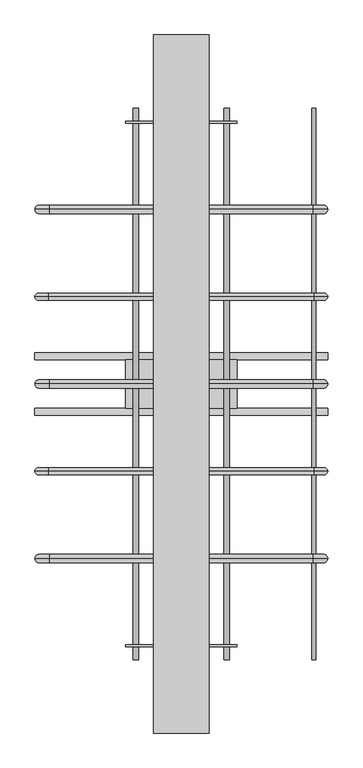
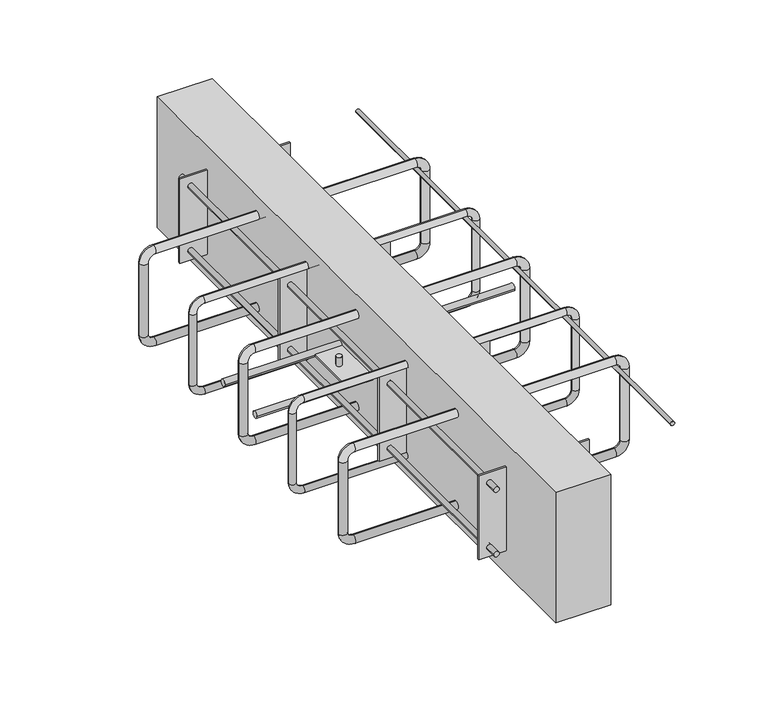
"""IFC4 building model written with IfcOpenShell, lengths in millimetres: proxy geometry, ACINOXplus_Typenreihe_Ux-Ox : OC+ S1."""

from ifc_helpers import new_model, si_unit, point, frame, frame_2d, origin, place, context, project, spatial, polyline, circle_curve, ellipse_curve, trimmed, segment, composite_curve, outline, extrude, source, transform, mapped, element, save
from ifc_brep_helpers import cylinder_surface, revolved_surface, advanced_brep


def generic_models_66b1b3f6(model_context):
    return source(origin(), model_context, "Body", "SolidModel", [
        advanced_brep(
        [(189.0, 0.0, -35.5), (189.0, 0.0, -23.5), (-189.0, 0.0, -23.5), (-189.0, 0.0, -35.5), (-198.0, 0.0, -44.5), (-210.0, 0.0, -44.5), (-210.0, 0.0, -155.5), (-198.0, 0.0, -155.5), (-189.0, 0.0, -164.5), (-189.0, 0.0, -176.5), (189.0, 0.0, -176.5), (189.0, 0.0, -164.5), (198.0, 0.0, -155.5), (210.0, 0.0, -155.5), (210.0, 0.0, -44.5), (198.0, 0.0, -44.5)],
        [
            (0, 1, circle_curve(frame((189.0, 0.0, -29.5), z_axis=(-1.0, 0.0, 0.0), x_axis=(0.0, 0.0, -1.0)), 6.0)),
            (1, 2),
            (2, 3, circle_curve(frame((-189.0, 0.0, -29.5), z_axis=(1.0, 0.0, 0.0), x_axis=(0.0, 0.0, -1.0)), 6.0)),
            (3, 0),
            (1, 0, circle_curve(frame((189.0, 0.0, -29.5), z_axis=(-1.0, 0.0, 0.0), x_axis=(0.0, 0.0, -1.0)), 6.0)),
            (3, 2, circle_curve(frame((-189.0, 0.0, -29.5), z_axis=(1.0, 0.0, 0.0), x_axis=(0.0, 0.0, -1.0)), 6.0)),
            (4, 3, circle_curve(frame((-189.0, 0.0, -44.5), z_axis=(0.0, 1.0, 0.0), x_axis=(0.0, 0.0, 1.0)), 9.0)),
            (2, 5, circle_curve(frame((-189.0, 0.0, -44.5), z_axis=(0.0, -1.0, 0.0), x_axis=(0.0, 0.0, 1.0)), 21.0)),
            (5, 4, circle_curve(frame((-204.0, 0.0, -44.5), z_axis=(0.0, 0.0, 1.0), x_axis=(1.0, 0.0, 0.0)), 6.0)),
            (4, 5, circle_curve(frame((-204.0, 0.0, -44.5), z_axis=(0.0, 0.0, 1.0), x_axis=(1.0, 0.0, 0.0)), 6.0)),
            (5, 6),
            (6, 7, circle_curve(frame((-204.0, 0.0, -155.5), z_axis=(0.0, 0.0, 1.0), x_axis=(1.0, 0.0, 0.0)), 6.0)),
            (7, 4),
            (7, 6, circle_curve(frame((-204.0, 0.0, -155.5), z_axis=(0.0, 0.0, 1.0), x_axis=(1.0, 0.0, 0.0)), 6.0)),
            (8, 7, circle_curve(frame((-189.0, 0.0, -155.5), z_axis=(0.0, 1.0, 0.0), x_axis=(-1.0, 0.0, 0.0)), 9.0)),
            (6, 9, circle_curve(frame((-189.0, 0.0, -155.5), z_axis=(0.0, -1.0, 0.0), x_axis=(-1.0, 0.0, 0.0)), 21.0)),
            (9, 8, circle_curve(frame((-189.0, 0.0, -170.5), z_axis=(-1.0, 0.0, 0.0), x_axis=(0.0, 0.0, 1.0)), 6.0)),
            (8, 9, circle_curve(frame((-189.0, 0.0, -170.5), z_axis=(-1.0, 0.0, 0.0), x_axis=(0.0, 0.0, 1.0)), 6.0)),
            (9, 10),
            (10, 11, circle_curve(frame((189.0, 0.0, -170.5), z_axis=(-1.0, 0.0, 0.0), x_axis=(0.0, 0.0, 1.0)), 6.0)),
            (11, 8),
            (11, 10, circle_curve(frame((189.0, 0.0, -170.5), z_axis=(-1.0, 0.0, 0.0), x_axis=(0.0, 0.0, 1.0)), 6.0)),
            (12, 11, circle_curve(frame((189.0, 0.0, -155.5), z_axis=(0.0, 1.0, 0.0), x_axis=(0.0, 0.0, -1.0)), 9.0)),
            (10, 13, circle_curve(frame((189.0, 0.0, -155.5), z_axis=(0.0, -1.0, 0.0), x_axis=(0.0, 0.0, -1.0)), 21.0)),
            (13, 12, circle_curve(frame((204.0, 0.0, -155.5), z_axis=(0.0, 0.0, -1.0), x_axis=(-1.0, 0.0, 0.0)), 6.0)),
            (12, 13, circle_curve(frame((204.0, 0.0, -155.5), z_axis=(0.0, 0.0, -1.0), x_axis=(-1.0, 0.0, 0.0)), 6.0)),
            (13, 14),
            (14, 15, circle_curve(frame((204.0, 0.0, -44.5), z_axis=(0.0, 0.0, -1.0), x_axis=(-1.0, 0.0, 0.0)), 6.0)),
            (15, 12),
            (15, 14, circle_curve(frame((204.0, 0.0, -44.5), z_axis=(0.0, 0.0, -1.0), x_axis=(-1.0, 0.0, 0.0)), 6.0)),
            (0, 15, circle_curve(frame((189.0, 0.0, -44.5), z_axis=(0.0, 1.0, 0.0), x_axis=(1.0, 0.0, 0.0)), 9.0)),
            (14, 1, circle_curve(frame((189.0, 0.0, -44.5), z_axis=(0.0, -1.0, 0.0), x_axis=(1.0, 0.0, 0.0)), 21.0)),
        ],
        [
            cylinder_surface(frame((189.0, 0.0, -29.5), z_axis=(1.0, 0.0, 0.0), x_axis=(0.0, 0.0, -1.0)), 6.0),
            revolved_surface(trimmed(ellipse_curve(frame((-189.0, 0.0, -29.5), z_axis=(1.0, 0.0, 0.0), x_axis=(0.0, 0.0, -1.0)), 6.0, 6.0), [point((-189.0, 0.0, -23.5))], [point((-189.0, 0.0, -35.5))], True, "CARTESIAN"), (-189.0, 0.0, -44.5), (0.0, -1.0, 0.0)),
            revolved_surface(trimmed(ellipse_curve(frame((-189.0, 0.0, -29.5), z_axis=(1.0, 0.0, 0.0), x_axis=(0.0, 0.0, -1.0)), 6.0, 6.0), [point((-189.0, 0.0, -35.5))], [point((-189.0, 0.0, -23.5))], True, "CARTESIAN"), (-189.0, 0.0, -44.5), (0.0, -1.0, 0.0)),
            cylinder_surface(frame((-204.0, 0.0, -44.5), z_axis=(0.0, 0.0, 1.0), x_axis=(1.0, 0.0, 0.0)), 6.0),
            revolved_surface(trimmed(ellipse_curve(frame((-204.0, 0.0, -155.5), z_axis=(0.0, 0.0, 1.0), x_axis=(1.0, 0.0, 0.0)), 6.0, 6.0), [point((-210.0, 0.0, -155.5))], [point((-198.0, 0.0, -155.5))], True, "CARTESIAN"), (-189.0, 0.0, -155.5), (0.0, -1.0, 0.0)),
            revolved_surface(trimmed(ellipse_curve(frame((-204.0, 0.0, -155.5), z_axis=(0.0, 0.0, 1.0), x_axis=(1.0, 0.0, 0.0)), 6.0, 6.0), [point((-198.0, 0.0, -155.5))], [point((-210.0, 0.0, -155.5))], True, "CARTESIAN"), (-189.0, 0.0, -155.5), (0.0, -1.0, 0.0)),
            cylinder_surface(frame((-189.0, 0.0, -170.5), z_axis=(-1.0, 0.0, 0.0), x_axis=(0.0, 0.0, 1.0)), 6.0),
            revolved_surface(trimmed(ellipse_curve(frame((189.0, 0.0, -170.5), z_axis=(-1.0, 0.0, 0.0), x_axis=(0.0, 0.0, 1.0)), 6.0, 6.0), [point((189.0, 0.0, -176.5))], [point((189.0, 0.0, -164.5))], True, "CARTESIAN"), (189.0, 0.0, -155.5), (0.0, -1.0, 0.0)),
            revolved_surface(trimmed(ellipse_curve(frame((189.0, 0.0, -170.5), z_axis=(-1.0, 0.0, 0.0), x_axis=(0.0, 0.0, 1.0)), 6.0, 6.0), [point((189.0, 0.0, -164.5))], [point((189.0, 0.0, -176.5))], True, "CARTESIAN"), (189.0, 0.0, -155.5), (0.0, -1.0, 0.0)),
            cylinder_surface(frame((204.0, 0.0, -155.5), z_axis=(0.0, 0.0, -1.0), x_axis=(-1.0, 0.0, 0.0)), 6.0),
            revolved_surface(trimmed(ellipse_curve(frame((204.0, 0.0, -44.5), z_axis=(0.0, 0.0, -1.0), x_axis=(-1.0, 0.0, 0.0)), 6.0, 6.0), [point((210.0, 0.0, -44.5))], [point((198.0, 0.0, -44.5))], True, "CARTESIAN"), (189.0, 0.0, -44.5), (0.0, -1.0, 0.0)),
            revolved_surface(trimmed(ellipse_curve(frame((204.0, 0.0, -44.5), z_axis=(0.0, 0.0, -1.0), x_axis=(-1.0, 0.0, 0.0)), 6.0, 6.0), [point((198.0, 0.0, -44.5))], [point((210.0, 0.0, -44.5))], True, "CARTESIAN"), (189.0, 0.0, -44.5), (0.0, -1.0, 0.0)),
        ],
        [
            (0, [[1, 2, 3, 4]]),
            (0, [[5, -4, 6, -2]]),
            (1, [[7, -3, 8, 9]]),
            (2, [[-8, -6, -7, 10]]),
            (3, [[-9, 11, 12, 13]]),
            (3, [[-10, -13, 14, -11]]),
            (4, [[15, -12, 16, 17]]),
            (5, [[-16, -14, -15, 18]]),
            (6, [[-17, 19, 20, 21]]),
            (6, [[-18, -21, 22, -19]]),
            (7, [[23, -20, 24, 25]]),
            (8, [[-24, -22, -23, 26]]),
            (9, [[-25, 27, 28, 29]]),
            (9, [[-26, -29, 30, -27]]),
            (10, [[31, -28, 32, -1]]),
            (11, [[-32, -30, -31, -5]]),
        ],
    ),
        advanced_brep(
        [(189.0, 250.0, -35.5), (189.0, 250.0, -23.5), (-189.0, 250.0, -23.5), (-189.0, 250.0, -35.5), (-198.0, 250.0, -44.5), (-210.0, 250.0, -44.5), (-210.0, 250.0, -155.5), (-198.0, 250.0, -155.5), (-189.0, 250.0, -164.5), (-189.0, 250.0, -176.5), (189.0, 250.0, -176.5), (189.0, 250.0, -164.5), (198.0, 250.0, -155.5), (210.0, 250.0, -155.5), (210.0, 250.0, -44.5), (198.0, 250.0, -44.5)],
        [
            (0, 1, circle_curve(frame((189.0, 250.0, -29.5), z_axis=(-1.0, 0.0, 0.0), x_axis=(0.0, 0.0, -1.0)), 6.0)),
            (1, 2),
            (2, 3, circle_curve(frame((-189.0, 250.0, -29.5), z_axis=(1.0, 0.0, 0.0), x_axis=(0.0, 0.0, -1.0)), 6.0)),
            (3, 0),
            (1, 0, circle_curve(frame((189.0, 250.0, -29.5), z_axis=(-1.0, 0.0, 0.0), x_axis=(0.0, 0.0, -1.0)), 6.0)),
            (3, 2, circle_curve(frame((-189.0, 250.0, -29.5), z_axis=(1.0, 0.0, 0.0), x_axis=(0.0, 0.0, -1.0)), 6.0)),
            (4, 3, circle_curve(frame((-189.0, 250.0, -44.5), z_axis=(0.0, 1.0, 0.0), x_axis=(0.0, 0.0, 1.0)), 9.0)),
            (2, 5, circle_curve(frame((-189.0, 250.0, -44.5), z_axis=(0.0, -1.0, 0.0), x_axis=(0.0, 0.0, 1.0)), 21.0)),
            (5, 4, circle_curve(frame((-204.0, 250.0, -44.5), z_axis=(0.0, 0.0, 1.0), x_axis=(1.0, 0.0, 0.0)), 6.0)),
            (4, 5, circle_curve(frame((-204.0, 250.0, -44.5), z_axis=(0.0, 0.0, 1.0), x_axis=(1.0, 0.0, 0.0)), 6.0)),
            (5, 6),
            (6, 7, circle_curve(frame((-204.0, 250.0, -155.5), z_axis=(0.0, 0.0, 1.0), x_axis=(1.0, 0.0, 0.0)), 6.0)),
            (7, 4),
            (7, 6, circle_curve(frame((-204.0, 250.0, -155.5), z_axis=(0.0, 0.0, 1.0), x_axis=(1.0, 0.0, 0.0)), 6.0)),
            (8, 7, circle_curve(frame((-189.0, 250.0, -155.5), z_axis=(0.0, 1.0, 0.0), x_axis=(-1.0, 0.0, 0.0)), 9.0)),
            (6, 9, circle_curve(frame((-189.0, 250.0, -155.5), z_axis=(0.0, -1.0, 0.0), x_axis=(-1.0, 0.0, 0.0)), 21.0)),
            (9, 8, circle_curve(frame((-189.0, 250.0, -170.5), z_axis=(-1.0, 0.0, 0.0), x_axis=(0.0, 0.0, 1.0)), 6.0)),
            (8, 9, circle_curve(frame((-189.0, 250.0, -170.5), z_axis=(-1.0, 0.0, 0.0), x_axis=(0.0, 0.0, 1.0)), 6.0)),
            (9, 10),
            (10, 11, circle_curve(frame((189.0, 250.0, -170.5), z_axis=(-1.0, 0.0, 0.0), x_axis=(0.0, 0.0, 1.0)), 6.0)),
            (11, 8),
            (11, 10, circle_curve(frame((189.0, 250.0, -170.5), z_axis=(-1.0, 0.0, 0.0), x_axis=(0.0, 0.0, 1.0)), 6.0)),
            (12, 11, circle_curve(frame((189.0, 250.0, -155.5), z_axis=(0.0, 1.0, 0.0), x_axis=(0.0, 0.0, -1.0)), 9.0)),
            (10, 13, circle_curve(frame((189.0, 250.0, -155.5), z_axis=(0.0, -1.0, 0.0), x_axis=(0.0, 0.0, -1.0)), 21.0)),
            (13, 12, circle_curve(frame((204.0, 250.0, -155.5), z_axis=(0.0, 0.0, -1.0), x_axis=(-1.0, 0.0, 0.0)), 6.0)),
            (12, 13, circle_curve(frame((204.0, 250.0, -155.5), z_axis=(0.0, 0.0, -1.0), x_axis=(-1.0, 0.0, 0.0)), 6.0)),
            (13, 14),
            (14, 15, circle_curve(frame((204.0, 250.0, -44.5), z_axis=(0.0, 0.0, -1.0), x_axis=(-1.0, 0.0, 0.0)), 6.0)),
            (15, 12),
            (15, 14, circle_curve(frame((204.0, 250.0, -44.5), z_axis=(0.0, 0.0, -1.0), x_axis=(-1.0, 0.0, 0.0)), 6.0)),
            (0, 15, circle_curve(frame((189.0, 250.0, -44.5), z_axis=(0.0, 1.0, 0.0), x_axis=(1.0, 0.0, 0.0)), 9.0)),
            (14, 1, circle_curve(frame((189.0, 250.0, -44.5), z_axis=(0.0, -1.0, 0.0), x_axis=(1.0, 0.0, 0.0)), 21.0)),
        ],
        [
            cylinder_surface(frame((189.0, 250.0, -29.5), z_axis=(1.0, 0.0, 0.0), x_axis=(0.0, 0.0, -1.0)), 6.0),
            revolved_surface(trimmed(ellipse_curve(frame((-189.0, 250.0, -29.5), z_axis=(1.0, 0.0, 0.0), x_axis=(0.0, 0.0, -1.0)), 6.0, 6.0), [point((-189.0, 250.0, -23.5))], [point((-189.0, 250.0, -35.5))], True, "CARTESIAN"), (-189.0, 250.0, -44.5), (0.0, -1.0, 0.0)),
            revolved_surface(trimmed(ellipse_curve(frame((-189.0, 250.0, -29.5), z_axis=(1.0, 0.0, 0.0), x_axis=(0.0, 0.0, -1.0)), 6.0, 6.0), [point((-189.0, 250.0, -35.5))], [point((-189.0, 250.0, -23.5))], True, "CARTESIAN"), (-189.0, 250.0, -44.5), (0.0, -1.0, 0.0)),
            cylinder_surface(frame((-204.0, 250.0, -44.5), z_axis=(0.0, 0.0, 1.0), x_axis=(1.0, 0.0, 0.0)), 6.0),
            revolved_surface(trimmed(ellipse_curve(frame((-204.0, 250.0, -155.5), z_axis=(0.0, 0.0, 1.0), x_axis=(1.0, 0.0, 0.0)), 6.0, 6.0), [point((-210.0, 250.0, -155.5))], [point((-198.0, 250.0, -155.5))], True, "CARTESIAN"), (-189.0, 250.0, -155.5), (0.0, -1.0, 0.0)),
            revolved_surface(trimmed(ellipse_curve(frame((-204.0, 250.0, -155.5), z_axis=(0.0, 0.0, 1.0), x_axis=(1.0, 0.0, 0.0)), 6.0, 6.0), [point((-198.0, 250.0, -155.5))], [point((-210.0, 250.0, -155.5))], True, "CARTESIAN"), (-189.0, 250.0, -155.5), (0.0, -1.0, 0.0)),
            cylinder_surface(frame((-189.0, 250.0, -170.5), z_axis=(-1.0, 0.0, 0.0), x_axis=(0.0, 0.0, 1.0)), 6.0),
            revolved_surface(trimmed(ellipse_curve(frame((189.0, 250.0, -170.5), z_axis=(-1.0, 0.0, 0.0), x_axis=(0.0, 0.0, 1.0)), 6.0, 6.0), [point((189.0, 250.0, -176.5))], [point((189.0, 250.0, -164.5))], True, "CARTESIAN"), (189.0, 250.0, -155.5), (0.0, -1.0, 0.0)),
            revolved_surface(trimmed(ellipse_curve(frame((189.0, 250.0, -170.5), z_axis=(-1.0, 0.0, 0.0), x_axis=(0.0, 0.0, 1.0)), 6.0, 6.0), [point((189.0, 250.0, -164.5))], [point((189.0, 250.0, -176.5))], True, "CARTESIAN"), (189.0, 250.0, -155.5), (0.0, -1.0, 0.0)),
            cylinder_surface(frame((204.0, 250.0, -155.5), z_axis=(0.0, 0.0, -1.0), x_axis=(-1.0, 0.0, 0.0)), 6.0),
            revolved_surface(trimmed(ellipse_curve(frame((204.0, 250.0, -44.5), z_axis=(0.0, 0.0, -1.0), x_axis=(-1.0, 0.0, 0.0)), 6.0, 6.0), [point((210.0, 250.0, -44.5))], [point((198.0, 250.0, -44.5))], True, "CARTESIAN"), (189.0, 250.0, -44.5), (0.0, -1.0, 0.0)),
            revolved_surface(trimmed(ellipse_curve(frame((204.0, 250.0, -44.5), z_axis=(0.0, 0.0, -1.0), x_axis=(-1.0, 0.0, 0.0)), 6.0, 6.0), [point((198.0, 250.0, -44.5))], [point((210.0, 250.0, -44.5))], True, "CARTESIAN"), (189.0, 250.0, -44.5), (0.0, -1.0, 0.0)),
        ],
        [
            (0, [[1, 2, 3, 4]]),
            (0, [[5, -4, 6, -2]]),
            (1, [[7, -3, 8, 9]]),
            (2, [[-8, -6, -7, 10]]),
            (3, [[-9, 11, 12, 13]]),
            (3, [[-10, -13, 14, -11]]),
            (4, [[15, -12, 16, 17]]),
            (5, [[-16, -14, -15, 18]]),
            (6, [[-17, 19, 20, 21]]),
            (6, [[-18, -21, 22, -19]]),
            (7, [[23, -20, 24, 25]]),
            (8, [[-24, -22, -23, 26]]),
            (9, [[-25, 27, 28, 29]]),
            (9, [[-26, -29, 30, -27]]),
            (10, [[31, -28, 32, -1]]),
            (11, [[-32, -30, -31, -5]]),
        ],
    ),
        advanced_brep(
        [(189.0, -250.0, -35.5), (189.0, -250.0, -23.5), (-189.0, -250.0, -23.5), (-189.0, -250.0, -35.5), (-198.0, -250.0, -44.5), (-210.0, -250.0, -44.5), (-210.0, -250.0, -155.5), (-198.0, -250.0, -155.5), (-189.0, -250.0, -164.5), (-189.0, -250.0, -176.5), (189.0, -250.0, -176.5), (189.0, -250.0, -164.5), (198.0, -250.0, -155.5), (210.0, -250.0, -155.5), (210.0, -250.0, -44.5), (198.0, -250.0, -44.5)],
        [
            (0, 1, circle_curve(frame((189.0, -250.0, -29.5), z_axis=(-1.0, 0.0, 0.0), x_axis=(0.0, 0.0, -1.0)), 6.0)),
            (1, 2),
            (2, 3, circle_curve(frame((-189.0, -250.0, -29.5), z_axis=(1.0, 0.0, 0.0), x_axis=(0.0, 0.0, -1.0)), 6.0)),
            (3, 0),
            (1, 0, circle_curve(frame((189.0, -250.0, -29.5), z_axis=(-1.0, 0.0, 0.0), x_axis=(0.0, 0.0, -1.0)), 6.0)),
            (3, 2, circle_curve(frame((-189.0, -250.0, -29.5), z_axis=(1.0, 0.0, 0.0), x_axis=(0.0, 0.0, -1.0)), 6.0)),
            (4, 3, circle_curve(frame((-189.0, -250.0, -44.5), z_axis=(0.0, 1.0, 0.0), x_axis=(0.0, 0.0, 1.0)), 9.0)),
            (2, 5, circle_curve(frame((-189.0, -250.0, -44.5), z_axis=(0.0, -1.0, 0.0), x_axis=(0.0, 0.0, 1.0)), 21.0)),
            (5, 4, circle_curve(frame((-204.0, -250.0, -44.5), z_axis=(0.0, 0.0, 1.0), x_axis=(1.0, 0.0, 0.0)), 6.0)),
            (4, 5, circle_curve(frame((-204.0, -250.0, -44.5), z_axis=(0.0, 0.0, 1.0), x_axis=(1.0, 0.0, 0.0)), 6.0)),
            (5, 6),
            (6, 7, circle_curve(frame((-204.0, -250.0, -155.5), z_axis=(0.0, 0.0, 1.0), x_axis=(1.0, 0.0, 0.0)), 6.0)),
            (7, 4),
            (7, 6, circle_curve(frame((-204.0, -250.0, -155.5), z_axis=(0.0, 0.0, 1.0), x_axis=(1.0, 0.0, 0.0)), 6.0)),
            (8, 7, circle_curve(frame((-189.0, -250.0, -155.5), z_axis=(0.0, 1.0, 0.0), x_axis=(-1.0, 0.0, 0.0)), 9.0)),
            (6, 9, circle_curve(frame((-189.0, -250.0, -155.5), z_axis=(0.0, -1.0, 0.0), x_axis=(-1.0, 0.0, 0.0)), 21.0)),
            (9, 8, circle_curve(frame((-189.0, -250.0, -170.5), z_axis=(-1.0, 0.0, 0.0), x_axis=(0.0, 0.0, 1.0)), 6.0)),
            (8, 9, circle_curve(frame((-189.0, -250.0, -170.5), z_axis=(-1.0, 0.0, 0.0), x_axis=(0.0, 0.0, 1.0)), 6.0)),
            (9, 10),
            (10, 11, circle_curve(frame((189.0, -250.0, -170.5), z_axis=(-1.0, 0.0, 0.0), x_axis=(0.0, 0.0, 1.0)), 6.0)),
            (11, 8),
            (11, 10, circle_curve(frame((189.0, -250.0, -170.5), z_axis=(-1.0, 0.0, 0.0), x_axis=(0.0, 0.0, 1.0)), 6.0)),
            (12, 11, circle_curve(frame((189.0, -250.0, -155.5), z_axis=(0.0, 1.0, 0.0), x_axis=(0.0, 0.0, -1.0)), 9.0)),
            (10, 13, circle_curve(frame((189.0, -250.0, -155.5), z_axis=(0.0, -1.0, 0.0), x_axis=(0.0, 0.0, -1.0)), 21.0)),
            (13, 12, circle_curve(frame((204.0, -250.0, -155.5), z_axis=(0.0, 0.0, -1.0), x_axis=(-1.0, 0.0, 0.0)), 6.0)),
            (12, 13, circle_curve(frame((204.0, -250.0, -155.5), z_axis=(0.0, 0.0, -1.0), x_axis=(-1.0, 0.0, 0.0)), 6.0)),
            (13, 14),
            (14, 15, circle_curve(frame((204.0, -250.0, -44.5), z_axis=(0.0, 0.0, -1.0), x_axis=(-1.0, 0.0, 0.0)), 6.0)),
            (15, 12),
            (15, 14, circle_curve(frame((204.0, -250.0, -44.5), z_axis=(0.0, 0.0, -1.0), x_axis=(-1.0, 0.0, 0.0)), 6.0)),
            (0, 15, circle_curve(frame((189.0, -250.0, -44.5), z_axis=(0.0, 1.0, 0.0), x_axis=(1.0, 0.0, 0.0)), 9.0)),
            (14, 1, circle_curve(frame((189.0, -250.0, -44.5), z_axis=(0.0, -1.0, 0.0), x_axis=(1.0, 0.0, 0.0)), 21.0)),
        ],
        [
            cylinder_surface(frame((189.0, -250.0, -29.5), z_axis=(1.0, 0.0, 0.0), x_axis=(0.0, 0.0, -1.0)), 6.0),
            revolved_surface(trimmed(ellipse_curve(frame((-189.0, -250.0, -29.5), z_axis=(1.0, 0.0, 0.0), x_axis=(0.0, 0.0, -1.0)), 6.0, 6.0), [point((-189.0, -250.0, -23.5))], [point((-189.0, -250.0, -35.5))], True, "CARTESIAN"), (-189.0, -250.0, -44.5), (0.0, -1.0, 0.0)),
            revolved_surface(trimmed(ellipse_curve(frame((-189.0, -250.0, -29.5), z_axis=(1.0, 0.0, 0.0), x_axis=(0.0, 0.0, -1.0)), 6.0, 6.0), [point((-189.0, -250.0, -35.5))], [point((-189.0, -250.0, -23.5))], True, "CARTESIAN"), (-189.0, -250.0, -44.5), (0.0, -1.0, 0.0)),
            cylinder_surface(frame((-204.0, -250.0, -44.5), z_axis=(0.0, 0.0, 1.0), x_axis=(1.0, 0.0, 0.0)), 6.0),
            revolved_surface(trimmed(ellipse_curve(frame((-204.0, -250.0, -155.5), z_axis=(0.0, 0.0, 1.0), x_axis=(1.0, 0.0, 0.0)), 6.0, 6.0), [point((-210.0, -250.0, -155.5))], [point((-198.0, -250.0, -155.5))], True, "CARTESIAN"), (-189.0, -250.0, -155.5), (0.0, -1.0, 0.0)),
            revolved_surface(trimmed(ellipse_curve(frame((-204.0, -250.0, -155.5), z_axis=(0.0, 0.0, 1.0), x_axis=(1.0, 0.0, 0.0)), 6.0, 6.0), [point((-198.0, -250.0, -155.5))], [point((-210.0, -250.0, -155.5))], True, "CARTESIAN"), (-189.0, -250.0, -155.5), (0.0, -1.0, 0.0)),
            cylinder_surface(frame((-189.0, -250.0, -170.5), z_axis=(-1.0, 0.0, 0.0), x_axis=(0.0, 0.0, 1.0)), 6.0),
            revolved_surface(trimmed(ellipse_curve(frame((189.0, -250.0, -170.5), z_axis=(-1.0, 0.0, 0.0), x_axis=(0.0, 0.0, 1.0)), 6.0, 6.0), [point((189.0, -250.0, -176.5))], [point((189.0, -250.0, -164.5))], True, "CARTESIAN"), (189.0, -250.0, -155.5), (0.0, -1.0, 0.0)),
            revolved_surface(trimmed(ellipse_curve(frame((189.0, -250.0, -170.5), z_axis=(-1.0, 0.0, 0.0), x_axis=(0.0, 0.0, 1.0)), 6.0, 6.0), [point((189.0, -250.0, -164.5))], [point((189.0, -250.0, -176.5))], True, "CARTESIAN"), (189.0, -250.0, -155.5), (0.0, -1.0, 0.0)),
            cylinder_surface(frame((204.0, -250.0, -155.5), z_axis=(0.0, 0.0, -1.0), x_axis=(-1.0, 0.0, 0.0)), 6.0),
            revolved_surface(trimmed(ellipse_curve(frame((204.0, -250.0, -44.5), z_axis=(0.0, 0.0, -1.0), x_axis=(-1.0, 0.0, 0.0)), 6.0, 6.0), [point((210.0, -250.0, -44.5))], [point((198.0, -250.0, -44.5))], True, "CARTESIAN"), (189.0, -250.0, -44.5), (0.0, -1.0, 0.0)),
            revolved_surface(trimmed(ellipse_curve(frame((204.0, -250.0, -44.5), z_axis=(0.0, 0.0, -1.0), x_axis=(-1.0, 0.0, 0.0)), 6.0, 6.0), [point((198.0, -250.0, -44.5))], [point((210.0, -250.0, -44.5))], True, "CARTESIAN"), (189.0, -250.0, -44.5), (0.0, -1.0, 0.0)),
        ],
        [
            (0, [[1, 2, 3, 4]]),
            (0, [[5, -4, 6, -2]]),
            (1, [[7, -3, 8, 9]]),
            (2, [[-8, -6, -7, 10]]),
            (3, [[-9, 11, 12, 13]]),
            (3, [[-10, -13, 14, -11]]),
            (4, [[15, -12, 16, 17]]),
            (5, [[-16, -14, -15, 18]]),
            (6, [[-17, 19, 20, 21]]),
            (6, [[-18, -21, 22, -19]]),
            (7, [[23, -20, 24, 25]]),
            (8, [[-24, -22, -23, 26]]),
            (9, [[-25, 27, 28, 29]]),
            (9, [[-26, -29, 30, -27]]),
            (10, [[31, -28, 32, -1]]),
            (11, [[-32, -30, -31, -5]]),
        ],
    ),
        extrude(outline(composite_curve([segment(trimmed(circle_curve(frame_2d((-38.5, 190.0)), 3.0), [point((-38.5, 193.0))], [point((-38.5, 187.0))], False, "CARTESIAN"), True, "CONTINUOUS"), segment(trimmed(circle_curve(frame_2d((-38.5, 190.0)), 3.0), [point((-38.5, 187.0))], [point((-38.5, 193.0))], False, "CARTESIAN"), True, "CONTINUOUS")], self_intersect=False)), frame((0.0, -395.0, 0.0), z_axis=(0.0, 1.0, 0.0), x_axis=(0.0, 0.0, 1.0)), (0.0, 0.0, 1.0), 790.0),
        extrude(outline(polyline([(40.0, 500.0), (40.0, -500.0), (-40.0, -500.0), (-40.0, 500.0), (40.0, 500.0)])), frame((0.0, 0.0, -200.0), z_axis=(0.0, 0.0, 1.0), x_axis=(1.0, 0.0, 0.0)), (0.0, 0.0, 1.0), 200.0),
        extrude(outline(composite_curve([segment(trimmed(circle_curve(frame_2d((-40.0, -100.0)), 5.0), [point((-45.0, -100.0))], [point((-35.0, -100.0))], False, "CARTESIAN"), True, "CONTINUOUS"), segment(trimmed(circle_curve(frame_2d((-40.0, -100.0)), 5.0), [point((-35.0, -100.0))], [point((-45.0, -100.0))], False, "CARTESIAN"), True, "CONTINUOUS")], self_intersect=False)), frame((-210.0, 0.0, 0.0), z_axis=(1.0, 0.0, 0.0), x_axis=(0.0, 1.0, 0.0)), (0.0, 0.0, 1.0), 420.0),
        extrude(outline(composite_curve([segment(trimmed(circle_curve(frame_2d((40.0, -100.0)), 5.0), [point((35.0, -100.0))], [point((45.0, -100.0))], False, "CARTESIAN"), True, "CONTINUOUS"), segment(trimmed(circle_curve(frame_2d((40.0, -100.0)), 5.0), [point((45.0, -100.0))], [point((35.0, -100.0))], False, "CARTESIAN"), True, "CONTINUOUS")], self_intersect=False)), frame((-210.0, 0.0, 0.0), z_axis=(1.0, 0.0, 0.0), x_axis=(0.0, 1.0, 0.0)), (0.0, 0.0, 1.0), 420.0),
        extrude(outline(composite_curve([segment(trimmed(circle_curve(frame_2d((-65.0, 0.0)), 4.0), [point((-61.0, 0.0))], [point((-69.0, 0.0))], False, "CARTESIAN"), True, "CONTINUOUS"), segment(trimmed(circle_curve(frame_2d((-65.0, 0.0)), 4.0), [point((-69.0, 0.0))], [point((-61.0, 0.0))], False, "CARTESIAN"), True, "CONTINUOUS")], self_intersect=False)), frame((0.0, 0.0, -98.5), z_axis=(0.0, 0.0, 1.0), x_axis=(1.0, 0.0, 0.0)), (0.0, 0.0, 1.0), 13.5),
        extrude(outline(composite_curve([segment(trimmed(circle_curve(frame_2d((65.0, 0.0)), 4.0), [point((69.0, 0.0))], [point((61.0, 0.0))], False, "CARTESIAN"), True, "CONTINUOUS"), segment(trimmed(circle_curve(frame_2d((65.0, 0.0)), 4.0), [point((61.0, 0.0))], [point((69.0, 0.0))], False, "CARTESIAN"), True, "CONTINUOUS")], self_intersect=False)), frame((0.0, 0.0, -98.5), z_axis=(0.0, 0.0, 1.0), x_axis=(1.0, 0.0, 0.0)), (0.0, 0.0, 1.0), 13.5),
        extrude(outline(composite_curve([segment(trimmed(circle_curve(frame_2d((-65.0, 0.0)), 4.0), [point((-69.0, 0.0))], [point((-61.0, 0.0))], False, "CARTESIAN"), True, "CONTINUOUS"), segment(trimmed(circle_curve(frame_2d((-65.0, 0.0)), 4.0), [point((-61.0, 0.0))], [point((-69.0, 0.0))], False, "CARTESIAN"), True, "CONTINUOUS")], self_intersect=False)), frame((0.0, 0.0, -115.0), z_axis=(0.0, 0.0, 1.0), x_axis=(1.0, 0.0, 0.0)), (0.0, 0.0, 1.0), 13.5),
        extrude(outline(composite_curve([segment(trimmed(circle_curve(frame_2d((65.0, 0.0)), 4.0), [point((61.0, 0.0))], [point((69.0, 0.0))], False, "CARTESIAN"), True, "CONTINUOUS"), segment(trimmed(circle_curve(frame_2d((65.0, 0.0)), 4.0), [point((69.0, 0.0))], [point((61.0, 0.0))], False, "CARTESIAN"), True, "CONTINUOUS")], self_intersect=False)), frame((0.0, 0.0, -115.0), z_axis=(0.0, 0.0, 1.0), x_axis=(1.0, 0.0, 0.0)), (0.0, 0.0, 1.0), 13.5),
        extrude(outline(polyline([(80.0, 35.0), (80.0, -35.0), (-80.0, -35.0), (-80.0, 35.0), (80.0, 35.0)])), frame((0.0, 0.0, -101.5), z_axis=(0.0, 0.0, 1.0), x_axis=(1.0, 0.0, 0.0)), (0.0, 0.0, 1.0), 3.0),
        extrude(outline(polyline([(80.0, -123.5), (80.0, -126.5), (-80.0, -126.5), (-80.0, -123.5), (80.0, -123.5)])), frame((0.0, 0.0, -164.5), z_axis=(0.0, 0.0, 1.0), x_axis=(1.0, 0.0, 0.0)), (0.0, 0.0, 1.0), 129.0),
        extrude(outline(polyline([(80.0, 126.5), (80.0, 123.5), (-80.0, 123.5), (-80.0, 126.5), (80.0, 126.5)])), frame((0.0, 0.0, -164.5), z_axis=(0.0, 0.0, 1.0), x_axis=(1.0, 0.0, 0.0)), (0.0, 0.0, 1.0), 129.0),
        extrude(outline(polyline([(80.0, -373.5), (80.0, -376.5), (-80.0, -376.5), (-80.0, -373.5), (80.0, -373.5)])), frame((0.0, 0.0, -164.5), z_axis=(0.0, 0.0, 1.0), x_axis=(1.0, 0.0, 0.0)), (0.0, 0.0, 1.0), 129.0),
        extrude(outline(polyline([(80.0, 376.5), (80.0, 373.5), (-80.0, 373.5), (-80.0, 376.5), (80.0, 376.5)])), frame((0.0, 0.0, -164.5), z_axis=(0.0, 0.0, 1.0), x_axis=(1.0, 0.0, 0.0)), (0.0, 0.0, 1.0), 129.0),
        extrude(outline(composite_curve([segment(trimmed(circle_curve(frame_2d((-149.5, -65.0)), 4.0), [point((-149.5, -61.0))], [point((-149.5, -69.0))], False, "CARTESIAN"), True, "CONTINUOUS"), segment(trimmed(circle_curve(frame_2d((-149.5, -65.0)), 4.0), [point((-149.5, -69.0))], [point((-149.5, -61.0))], False, "CARTESIAN"), True, "CONTINUOUS")], self_intersect=False)), frame((0.0, -395.0, 0.0), z_axis=(0.0, 1.0, 0.0), x_axis=(0.0, 0.0, 1.0)), (0.0, 0.0, 1.0), 18.5),
        extrude(outline(composite_curve([segment(trimmed(circle_curve(frame_2d((-149.5, -65.0)), 4.0), [point((-149.5, -69.0))], [point((-149.5, -61.0))], False, "CARTESIAN"), True, "CONTINUOUS"), segment(trimmed(circle_curve(frame_2d((-149.5, -65.0)), 4.0), [point((-149.5, -61.0))], [point((-149.5, -69.0))], False, "CARTESIAN"), True, "CONTINUOUS")], self_intersect=False)), frame((0.0, -373.5, 0.0), z_axis=(0.0, 1.0, 0.0), x_axis=(0.0, 0.0, 1.0)), (0.0, 0.0, 1.0), 497.0),
        extrude(outline(composite_curve([segment(trimmed(circle_curve(frame_2d((-149.5, -65.0)), 4.0), [point((-149.5, -69.0))], [point((-149.5, -61.0))], False, "CARTESIAN"), True, "CONTINUOUS"), segment(trimmed(circle_curve(frame_2d((-149.5, -65.0)), 4.0), [point((-149.5, -61.0))], [point((-149.5, -69.0))], False, "CARTESIAN"), True, "CONTINUOUS")], self_intersect=False)), frame((0.0, 376.5, 0.0), z_axis=(0.0, 1.0, 0.0), x_axis=(0.0, 0.0, 1.0)), (0.0, 0.0, 1.0), 18.5),
        extrude(outline(composite_curve([segment(trimmed(circle_curve(frame_2d((-149.5, -65.0)), 4.0), [point((-149.5, -69.0))], [point((-149.5, -61.0))], False, "CARTESIAN"), True, "CONTINUOUS"), segment(trimmed(circle_curve(frame_2d((-149.5, -65.0)), 4.0), [point((-149.5, -61.0))], [point((-149.5, -69.0))], False, "CARTESIAN"), True, "CONTINUOUS")], self_intersect=False)), frame((0.0, 126.5, 0.0), z_axis=(0.0, 1.0, 0.0), x_axis=(0.0, 0.0, 1.0)), (0.0, 0.0, 1.0), 247.0),
        extrude(outline(composite_curve([segment(trimmed(circle_curve(frame_2d((-149.5, 65.0)), 4.0), [point((-149.5, 69.0))], [point((-149.5, 61.0))], False, "CARTESIAN"), True, "CONTINUOUS"), segment(trimmed(circle_curve(frame_2d((-149.5, 65.0)), 4.0), [point((-149.5, 61.0))], [point((-149.5, 69.0))], False, "CARTESIAN"), True, "CONTINUOUS")], self_intersect=False)), frame((0.0, -395.0, 0.0), z_axis=(0.0, 1.0, 0.0), x_axis=(0.0, 0.0, 1.0)), (0.0, 0.0, 1.0), 18.5),
        extrude(outline(composite_curve([segment(trimmed(circle_curve(frame_2d((-149.5, 65.0)), 4.0), [point((-149.5, 61.0))], [point((-149.5, 69.0))], False, "CARTESIAN"), True, "CONTINUOUS"), segment(trimmed(circle_curve(frame_2d((-149.5, 65.0)), 4.0), [point((-149.5, 69.0))], [point((-149.5, 61.0))], False, "CARTESIAN"), True, "CONTINUOUS")], self_intersect=False)), frame((0.0, -373.5, 0.0), z_axis=(0.0, 1.0, 0.0), x_axis=(0.0, 0.0, 1.0)), (0.0, 0.0, 1.0), 497.0),
        extrude(outline(composite_curve([segment(trimmed(circle_curve(frame_2d((-149.5, 65.0)), 4.0), [point((-149.5, 61.0))], [point((-149.5, 69.0))], False, "CARTESIAN"), True, "CONTINUOUS"), segment(trimmed(circle_curve(frame_2d((-149.5, 65.0)), 4.0), [point((-149.5, 69.0))], [point((-149.5, 61.0))], False, "CARTESIAN"), True, "CONTINUOUS")], self_intersect=False)), frame((0.0, 376.5, 0.0), z_axis=(0.0, 1.0, 0.0), x_axis=(0.0, 0.0, 1.0)), (0.0, 0.0, 1.0), 18.5),
        extrude(outline(composite_curve([segment(trimmed(circle_curve(frame_2d((-149.5, 65.0)), 4.0), [point((-149.5, 61.0))], [point((-149.5, 69.0))], False, "CARTESIAN"), True, "CONTINUOUS"), segment(trimmed(circle_curve(frame_2d((-149.5, 65.0)), 4.0), [point((-149.5, 69.0))], [point((-149.5, 61.0))], False, "CARTESIAN"), True, "CONTINUOUS")], self_intersect=False)), frame((0.0, 126.5, 0.0), z_axis=(0.0, 1.0, 0.0), x_axis=(0.0, 0.0, 1.0)), (0.0, 0.0, 1.0), 247.0),
        extrude(outline(composite_curve([segment(trimmed(circle_curve(frame_2d((-50.5, -65.0)), 4.0), [point((-50.5, -69.0))], [point((-50.5, -61.0))], False, "CARTESIAN"), True, "CONTINUOUS"), segment(trimmed(circle_curve(frame_2d((-50.5, -65.0)), 4.0), [point((-50.5, -61.0))], [point((-50.5, -69.0))], False, "CARTESIAN"), True, "CONTINUOUS")], self_intersect=False)), frame((0.0, 376.5, 0.0), z_axis=(0.0, 1.0, 0.0), x_axis=(0.0, 0.0, 1.0)), (0.0, 0.0, 1.0), 18.5),
        extrude(outline(composite_curve([segment(trimmed(circle_curve(frame_2d((-50.5, -65.0)), 4.0), [point((-50.5, -61.0))], [point((-50.5, -69.0))], False, "CARTESIAN"), True, "CONTINUOUS"), segment(trimmed(circle_curve(frame_2d((-50.5, -65.0)), 4.0), [point((-50.5, -69.0))], [point((-50.5, -61.0))], False, "CARTESIAN"), True, "CONTINUOUS")], self_intersect=False)), frame((0.0, -395.0, 0.0), z_axis=(0.0, 1.0, 0.0), x_axis=(0.0, 0.0, 1.0)), (0.0, 0.0, 1.0), 18.5),
        extrude(outline(composite_curve([segment(trimmed(circle_curve(frame_2d((-50.5, -65.0)), 4.0), [point((-50.5, -69.0))], [point((-50.5, -61.0))], False, "CARTESIAN"), True, "CONTINUOUS"), segment(trimmed(circle_curve(frame_2d((-50.5, -65.0)), 4.0), [point((-50.5, -61.0))], [point((-50.5, -69.0))], False, "CARTESIAN"), True, "CONTINUOUS")], self_intersect=False)), frame((0.0, -373.5, 0.0), z_axis=(0.0, 1.0, 0.0), x_axis=(0.0, 0.0, 1.0)), (0.0, 0.0, 1.0), 497.0),
        extrude(outline(composite_curve([segment(trimmed(circle_curve(frame_2d((-50.5, -65.0)), 4.0), [point((-50.5, -69.0))], [point((-50.5, -61.0))], False, "CARTESIAN"), True, "CONTINUOUS"), segment(trimmed(circle_curve(frame_2d((-50.5, -65.0)), 4.0), [point((-50.5, -61.0))], [point((-50.5, -69.0))], False, "CARTESIAN"), True, "CONTINUOUS")], self_intersect=False)), frame((0.0, 126.5, 0.0), z_axis=(0.0, 1.0, 0.0), x_axis=(0.0, 0.0, 1.0)), (0.0, 0.0, 1.0), 247.0),
        extrude(outline(composite_curve([segment(trimmed(circle_curve(frame_2d((-50.5, 65.0)), 4.0), [point((-50.5, 61.0))], [point((-50.5, 69.0))], False, "CARTESIAN"), True, "CONTINUOUS"), segment(trimmed(circle_curve(frame_2d((-50.5, 65.0)), 4.0), [point((-50.5, 69.0))], [point((-50.5, 61.0))], False, "CARTESIAN"), True, "CONTINUOUS")], self_intersect=False)), frame((0.0, 376.5, 0.0), z_axis=(0.0, 1.0, 0.0), x_axis=(0.0, 0.0, 1.0)), (0.0, 0.0, 1.0), 18.5),
        extrude(outline(composite_curve([segment(trimmed(circle_curve(frame_2d((-50.5, 65.0)), 4.0), [point((-50.5, 69.0))], [point((-50.5, 61.0))], False, "CARTESIAN"), True, "CONTINUOUS"), segment(trimmed(circle_curve(frame_2d((-50.5, 65.0)), 4.0), [point((-50.5, 61.0))], [point((-50.5, 69.0))], False, "CARTESIAN"), True, "CONTINUOUS")], self_intersect=False)), frame((0.0, -395.0, 0.0), z_axis=(0.0, 1.0, 0.0), x_axis=(0.0, 0.0, 1.0)), (0.0, 0.0, 1.0), 18.5),
        extrude(outline(composite_curve([segment(trimmed(circle_curve(frame_2d((-50.5, 65.0)), 4.0), [point((-50.5, 61.0))], [point((-50.5, 69.0))], False, "CARTESIAN"), True, "CONTINUOUS"), segment(trimmed(circle_curve(frame_2d((-50.5, 65.0)), 4.0), [point((-50.5, 69.0))], [point((-50.5, 61.0))], False, "CARTESIAN"), True, "CONTINUOUS")], self_intersect=False)), frame((0.0, -373.5, 0.0), z_axis=(0.0, 1.0, 0.0), x_axis=(0.0, 0.0, 1.0)), (0.0, 0.0, 1.0), 497.0),
        extrude(outline(composite_curve([segment(trimmed(circle_curve(frame_2d((-50.5, 65.0)), 4.0), [point((-50.5, 61.0))], [point((-50.5, 69.0))], False, "CARTESIAN"), True, "CONTINUOUS"), segment(trimmed(circle_curve(frame_2d((-50.5, 65.0)), 4.0), [point((-50.5, 69.0))], [point((-50.5, 61.0))], False, "CARTESIAN"), True, "CONTINUOUS")], self_intersect=False)), frame((0.0, 126.5, 0.0), z_axis=(0.0, 1.0, 0.0), x_axis=(0.0, 0.0, 1.0)), (0.0, 0.0, 1.0), 247.0),
        advanced_brep(
        [(190.0, 125.0, -35.5), (190.0, 125.0, -25.5), (-190.0, 125.0, -25.5), (-190.0, 125.0, -35.5), (-200.0, 125.0, -45.5), (-210.0, 125.0, -45.5), (-210.0, 125.0, -154.5), (-200.0, 125.0, -154.5), (-190.0, 125.0, -164.5), (-190.0, 125.0, -174.5), (190.0, 125.0, -174.5), (190.0, 125.0, -164.5), (200.0, 125.0, -154.5), (210.0, 125.0, -154.5), (210.0, 125.0, -45.5), (200.0, 125.0, -45.5)],
        [
            (0, 1, circle_curve(frame((190.0, 125.0, -30.5), z_axis=(-1.0, 0.0, 0.0), x_axis=(0.0, 0.0, -1.0)), 5.0)),
            (1, 2),
            (2, 3, circle_curve(frame((-190.0, 125.0, -30.5), z_axis=(1.0, 0.0, 0.0), x_axis=(0.0, 0.0, -1.0)), 5.0)),
            (3, 0),
            (1, 0, circle_curve(frame((190.0, 125.0, -30.5), z_axis=(-1.0, 0.0, 0.0), x_axis=(0.0, 0.0, -1.0)), 5.0)),
            (3, 2, circle_curve(frame((-190.0, 125.0, -30.5), z_axis=(1.0, 0.0, 0.0), x_axis=(0.0, 0.0, -1.0)), 5.0)),
            (4, 3, circle_curve(frame((-190.0, 125.0, -45.5), z_axis=(0.0, 1.0, 0.0), x_axis=(0.0, 0.0, 1.0)), 10.0)),
            (2, 5, circle_curve(frame((-190.0, 125.0, -45.5), z_axis=(0.0, -1.0, 0.0), x_axis=(0.0, 0.0, 1.0)), 20.0)),
            (5, 4, circle_curve(frame((-205.0, 125.0, -45.5), z_axis=(0.0, 0.0, 1.0), x_axis=(1.0, 0.0, 0.0)), 5.0)),
            (4, 5, circle_curve(frame((-205.0, 125.0, -45.5), z_axis=(0.0, 0.0, 1.0), x_axis=(1.0, 0.0, 0.0)), 5.0)),
            (5, 6),
            (6, 7, circle_curve(frame((-205.0, 125.0, -154.5), z_axis=(0.0, 0.0, 1.0), x_axis=(1.0, 0.0, 0.0)), 5.0)),
            (7, 4),
            (7, 6, circle_curve(frame((-205.0, 125.0, -154.5), z_axis=(0.0, 0.0, 1.0), x_axis=(1.0, 0.0, 0.0)), 5.0)),
            (8, 7, circle_curve(frame((-190.0, 125.0, -154.5), z_axis=(0.0, 1.0, 0.0), x_axis=(-1.0, 0.0, 0.0)), 10.0)),
            (6, 9, circle_curve(frame((-190.0, 125.0, -154.5), z_axis=(0.0, -1.0, 0.0), x_axis=(-1.0, 0.0, 0.0)), 20.0)),
            (9, 8, circle_curve(frame((-190.0, 125.0, -169.5), z_axis=(-1.0, 0.0, 0.0), x_axis=(0.0, 0.0, 1.0)), 5.0)),
            (8, 9, circle_curve(frame((-190.0, 125.0, -169.5), z_axis=(-1.0, 0.0, 0.0), x_axis=(0.0, 0.0, 1.0)), 5.0)),
            (9, 10),
            (10, 11, circle_curve(frame((190.0, 125.0, -169.5), z_axis=(-1.0, 0.0, 0.0), x_axis=(0.0, 0.0, 1.0)), 5.0)),
            (11, 8),
            (11, 10, circle_curve(frame((190.0, 125.0, -169.5), z_axis=(-1.0, 0.0, 0.0), x_axis=(0.0, 0.0, 1.0)), 5.0)),
            (12, 11, circle_curve(frame((190.0, 125.0, -154.5), z_axis=(0.0, 1.0, 0.0), x_axis=(0.0, 0.0, -1.0)), 10.0)),
            (10, 13, circle_curve(frame((190.0, 125.0, -154.5), z_axis=(0.0, -1.0, 0.0), x_axis=(0.0, 0.0, -1.0)), 20.0)),
            (13, 12, circle_curve(frame((205.0, 125.0, -154.5), z_axis=(0.0, 0.0, -1.0), x_axis=(-1.0, 0.0, 0.0)), 5.0)),
            (12, 13, circle_curve(frame((205.0, 125.0, -154.5), z_axis=(0.0, 0.0, -1.0), x_axis=(-1.0, 0.0, 0.0)), 5.0)),
            (13, 14),
            (14, 15, circle_curve(frame((205.0, 125.0, -45.5), z_axis=(0.0, 0.0, -1.0), x_axis=(-1.0, 0.0, 0.0)), 5.0)),
            (15, 12),
            (15, 14, circle_curve(frame((205.0, 125.0, -45.5), z_axis=(0.0, 0.0, -1.0), x_axis=(-1.0, 0.0, 0.0)), 5.0)),
            (0, 15, circle_curve(frame((190.0, 125.0, -45.5), z_axis=(0.0, 1.0, 0.0), x_axis=(1.0, 0.0, 0.0)), 10.0)),
            (14, 1, circle_curve(frame((190.0, 125.0, -45.5), z_axis=(0.0, -1.0, 0.0), x_axis=(1.0, 0.0, 0.0)), 20.0)),
        ],
        [
            cylinder_surface(frame((190.0, 125.0, -30.5), z_axis=(1.0, 0.0, 0.0), x_axis=(0.0, 0.0, -1.0)), 5.0),
            revolved_surface(trimmed(ellipse_curve(frame((-190.0, 125.0, -30.5), z_axis=(1.0, 0.0, 0.0), x_axis=(0.0, 0.0, -1.0)), 5.0, 5.0), [point((-190.0, 125.0, -25.5))], [point((-190.0, 125.0, -35.5))], True, "CARTESIAN"), (-190.0, 125.0, -45.5), (0.0, -1.0, 0.0)),
            revolved_surface(trimmed(ellipse_curve(frame((-190.0, 125.0, -30.5), z_axis=(1.0, 0.0, 0.0), x_axis=(0.0, 0.0, -1.0)), 5.0, 5.0), [point((-190.0, 125.0, -35.5))], [point((-190.0, 125.0, -25.5))], True, "CARTESIAN"), (-190.0, 125.0, -45.5), (0.0, -1.0, 0.0)),
            cylinder_surface(frame((-205.0, 125.0, -45.5), z_axis=(0.0, 0.0, 1.0), x_axis=(1.0, 0.0, 0.0)), 5.0),
            revolved_surface(trimmed(ellipse_curve(frame((-205.0, 125.0, -154.5), z_axis=(0.0, 0.0, 1.0), x_axis=(1.0, 0.0, 0.0)), 5.0, 5.0), [point((-210.0, 125.0, -154.5))], [point((-200.0, 125.0, -154.5))], True, "CARTESIAN"), (-190.0, 125.0, -154.5), (0.0, -1.0, 0.0)),
            revolved_surface(trimmed(ellipse_curve(frame((-205.0, 125.0, -154.5), z_axis=(0.0, 0.0, 1.0), x_axis=(1.0, 0.0, 0.0)), 5.0, 5.0), [point((-200.0, 125.0, -154.5))], [point((-210.0, 125.0, -154.5))], True, "CARTESIAN"), (-190.0, 125.0, -154.5), (0.0, -1.0, 0.0)),
            cylinder_surface(frame((-190.0, 125.0, -169.5), z_axis=(-1.0, 0.0, 0.0), x_axis=(0.0, 0.0, 1.0)), 5.0),
            revolved_surface(trimmed(ellipse_curve(frame((190.0, 125.0, -169.5), z_axis=(-1.0, 0.0, 0.0), x_axis=(0.0, 0.0, 1.0)), 5.0, 5.0), [point((190.0, 125.0, -174.5))], [point((190.0, 125.0, -164.5))], True, "CARTESIAN"), (190.0, 125.0, -154.5), (0.0, -1.0, 0.0)),
            revolved_surface(trimmed(ellipse_curve(frame((190.0, 125.0, -169.5), z_axis=(-1.0, 0.0, 0.0), x_axis=(0.0, 0.0, 1.0)), 5.0, 5.0), [point((190.0, 125.0, -164.5))], [point((190.0, 125.0, -174.5))], True, "CARTESIAN"), (190.0, 125.0, -154.5), (0.0, -1.0, 0.0)),
            cylinder_surface(frame((205.0, 125.0, -154.5), z_axis=(0.0, 0.0, -1.0), x_axis=(-1.0, 0.0, 0.0)), 5.0),
            revolved_surface(trimmed(ellipse_curve(frame((205.0, 125.0, -45.5), z_axis=(0.0, 0.0, -1.0), x_axis=(-1.0, 0.0, 0.0)), 5.0, 5.0), [point((210.0, 125.0, -45.5))], [point((200.0, 125.0, -45.5))], True, "CARTESIAN"), (190.0, 125.0, -45.5), (0.0, -1.0, 0.0)),
            revolved_surface(trimmed(ellipse_curve(frame((205.0, 125.0, -45.5), z_axis=(0.0, 0.0, -1.0), x_axis=(-1.0, 0.0, 0.0)), 5.0, 5.0), [point((200.0, 125.0, -45.5))], [point((210.0, 125.0, -45.5))], True, "CARTESIAN"), (190.0, 125.0, -45.5), (0.0, -1.0, 0.0)),
        ],
        [
            (0, [[1, 2, 3, 4]]),
            (0, [[5, -4, 6, -2]]),
            (1, [[7, -3, 8, 9]]),
            (2, [[-8, -6, -7, 10]]),
            (3, [[-9, 11, 12, 13]]),
            (3, [[-10, -13, 14, -11]]),
            (4, [[15, -12, 16, 17]]),
            (5, [[-16, -14, -15, 18]]),
            (6, [[-17, 19, 20, 21]]),
            (6, [[-18, -21, 22, -19]]),
            (7, [[23, -20, 24, 25]]),
            (8, [[-24, -22, -23, 26]]),
            (9, [[-25, 27, 28, 29]]),
            (9, [[-26, -29, 30, -27]]),
            (10, [[31, -28, 32, -1]]),
            (11, [[-32, -30, -31, -5]]),
        ],
    ),
        advanced_brep(
        [(190.0, -125.0, -35.5), (190.0, -125.0, -25.5), (-190.0, -125.0, -25.5), (-190.0, -125.0, -35.5), (-200.0, -125.0, -45.5), (-210.0, -125.0, -45.5), (-210.0, -125.0, -154.5), (-200.0, -125.0, -154.5), (-190.0, -125.0, -164.5), (-190.0, -125.0, -174.5), (190.0, -125.0, -174.5), (190.0, -125.0, -164.5), (200.0, -125.0, -154.5), (210.0, -125.0, -154.5), (210.0, -125.0, -45.5), (200.0, -125.0, -45.5)],
        [
            (0, 1, circle_curve(frame((190.0, -125.0, -30.5), z_axis=(-1.0, 0.0, 0.0), x_axis=(0.0, 0.0, -1.0)), 5.0)),
            (1, 2),
            (2, 3, circle_curve(frame((-190.0, -125.0, -30.5), z_axis=(1.0, 0.0, 0.0), x_axis=(0.0, 0.0, -1.0)), 5.0)),
            (3, 0),
            (1, 0, circle_curve(frame((190.0, -125.0, -30.5), z_axis=(-1.0, 0.0, 0.0), x_axis=(0.0, 0.0, -1.0)), 5.0)),
            (3, 2, circle_curve(frame((-190.0, -125.0, -30.5), z_axis=(1.0, 0.0, 0.0), x_axis=(0.0, 0.0, -1.0)), 5.0)),
            (4, 3, circle_curve(frame((-190.0, -125.0, -45.5), z_axis=(0.0, 1.0, 0.0), x_axis=(0.0, 0.0, 1.0)), 10.0)),
            (2, 5, circle_curve(frame((-190.0, -125.0, -45.5), z_axis=(0.0, -1.0, 0.0), x_axis=(0.0, 0.0, 1.0)), 20.0)),
            (5, 4, circle_curve(frame((-205.0, -125.0, -45.5), z_axis=(0.0, 0.0, 1.0), x_axis=(1.0, 0.0, 0.0)), 5.0)),
            (4, 5, circle_curve(frame((-205.0, -125.0, -45.5), z_axis=(0.0, 0.0, 1.0), x_axis=(1.0, 0.0, 0.0)), 5.0)),
            (5, 6),
            (6, 7, circle_curve(frame((-205.0, -125.0, -154.5), z_axis=(0.0, 0.0, 1.0), x_axis=(1.0, 0.0, 0.0)), 5.0)),
            (7, 4),
            (7, 6, circle_curve(frame((-205.0, -125.0, -154.5), z_axis=(0.0, 0.0, 1.0), x_axis=(1.0, 0.0, 0.0)), 5.0)),
            (8, 7, circle_curve(frame((-190.0, -125.0, -154.5), z_axis=(0.0, 1.0, 0.0), x_axis=(-1.0, 0.0, 0.0)), 10.0)),
            (6, 9, circle_curve(frame((-190.0, -125.0, -154.5), z_axis=(0.0, -1.0, 0.0), x_axis=(-1.0, 0.0, 0.0)), 20.0)),
            (9, 8, circle_curve(frame((-190.0, -125.0, -169.5), z_axis=(-1.0, 0.0, 0.0), x_axis=(0.0, 0.0, 1.0)), 5.0)),
            (8, 9, circle_curve(frame((-190.0, -125.0, -169.5), z_axis=(-1.0, 0.0, 0.0), x_axis=(0.0, 0.0, 1.0)), 5.0)),
            (9, 10),
            (10, 11, circle_curve(frame((190.0, -125.0, -169.5), z_axis=(-1.0, 0.0, 0.0), x_axis=(0.0, 0.0, 1.0)), 5.0)),
            (11, 8),
            (11, 10, circle_curve(frame((190.0, -125.0, -169.5), z_axis=(-1.0, 0.0, 0.0), x_axis=(0.0, 0.0, 1.0)), 5.0)),
            (12, 11, circle_curve(frame((190.0, -125.0, -154.5), z_axis=(0.0, 1.0, 0.0), x_axis=(0.0, 0.0, -1.0)), 10.0)),
            (10, 13, circle_curve(frame((190.0, -125.0, -154.5), z_axis=(0.0, -1.0, 0.0), x_axis=(0.0, 0.0, -1.0)), 20.0)),
            (13, 12, circle_curve(frame((205.0, -125.0, -154.5), z_axis=(0.0, 0.0, -1.0), x_axis=(-1.0, 0.0, 0.0)), 5.0)),
            (12, 13, circle_curve(frame((205.0, -125.0, -154.5), z_axis=(0.0, 0.0, -1.0), x_axis=(-1.0, 0.0, 0.0)), 5.0)),
            (13, 14),
            (14, 15, circle_curve(frame((205.0, -125.0, -45.5), z_axis=(0.0, 0.0, -1.0), x_axis=(-1.0, 0.0, 0.0)), 5.0)),
            (15, 12),
            (15, 14, circle_curve(frame((205.0, -125.0, -45.5), z_axis=(0.0, 0.0, -1.0), x_axis=(-1.0, 0.0, 0.0)), 5.0)),
            (0, 15, circle_curve(frame((190.0, -125.0, -45.5), z_axis=(0.0, 1.0, 0.0), x_axis=(1.0, 0.0, 0.0)), 10.0)),
            (14, 1, circle_curve(frame((190.0, -125.0, -45.5), z_axis=(0.0, -1.0, 0.0), x_axis=(1.0, 0.0, 0.0)), 20.0)),
        ],
        [
            cylinder_surface(frame((190.0, -125.0, -30.5), z_axis=(1.0, 0.0, 0.0), x_axis=(0.0, 0.0, -1.0)), 5.0),
            revolved_surface(trimmed(ellipse_curve(frame((-190.0, -125.0, -30.5), z_axis=(1.0, 0.0, 0.0), x_axis=(0.0, 0.0, -1.0)), 5.0, 5.0), [point((-190.0, -125.0, -25.5))], [point((-190.0, -125.0, -35.5))], True, "CARTESIAN"), (-190.0, -125.0, -45.5), (0.0, -1.0, 0.0)),
            revolved_surface(trimmed(ellipse_curve(frame((-190.0, -125.0, -30.5), z_axis=(1.0, 0.0, 0.0), x_axis=(0.0, 0.0, -1.0)), 5.0, 5.0), [point((-190.0, -125.0, -35.5))], [point((-190.0, -125.0, -25.5))], True, "CARTESIAN"), (-190.0, -125.0, -45.5), (0.0, -1.0, 0.0)),
            cylinder_surface(frame((-205.0, -125.0, -45.5), z_axis=(0.0, 0.0, 1.0), x_axis=(1.0, 0.0, 0.0)), 5.0),
            revolved_surface(trimmed(ellipse_curve(frame((-205.0, -125.0, -154.5), z_axis=(0.0, 0.0, 1.0), x_axis=(1.0, 0.0, 0.0)), 5.0, 5.0), [point((-210.0, -125.0, -154.5))], [point((-200.0, -125.0, -154.5))], True, "CARTESIAN"), (-190.0, -125.0, -154.5), (0.0, -1.0, 0.0)),
            revolved_surface(trimmed(ellipse_curve(frame((-205.0, -125.0, -154.5), z_axis=(0.0, 0.0, 1.0), x_axis=(1.0, 0.0, 0.0)), 5.0, 5.0), [point((-200.0, -125.0, -154.5))], [point((-210.0, -125.0, -154.5))], True, "CARTESIAN"), (-190.0, -125.0, -154.5), (0.0, -1.0, 0.0)),
            cylinder_surface(frame((-190.0, -125.0, -169.5), z_axis=(-1.0, 0.0, 0.0), x_axis=(0.0, 0.0, 1.0)), 5.0),
            revolved_surface(trimmed(ellipse_curve(frame((190.0, -125.0, -169.5), z_axis=(-1.0, 0.0, 0.0), x_axis=(0.0, 0.0, 1.0)), 5.0, 5.0), [point((190.0, -125.0, -174.5))], [point((190.0, -125.0, -164.5))], True, "CARTESIAN"), (190.0, -125.0, -154.5), (0.0, -1.0, 0.0)),
            revolved_surface(trimmed(ellipse_curve(frame((190.0, -125.0, -169.5), z_axis=(-1.0, 0.0, 0.0), x_axis=(0.0, 0.0, 1.0)), 5.0, 5.0), [point((190.0, -125.0, -164.5))], [point((190.0, -125.0, -174.5))], True, "CARTESIAN"), (190.0, -125.0, -154.5), (0.0, -1.0, 0.0)),
            cylinder_surface(frame((205.0, -125.0, -154.5), z_axis=(0.0, 0.0, -1.0), x_axis=(-1.0, 0.0, 0.0)), 5.0),
            revolved_surface(trimmed(ellipse_curve(frame((205.0, -125.0, -45.5), z_axis=(0.0, 0.0, -1.0), x_axis=(-1.0, 0.0, 0.0)), 5.0, 5.0), [point((210.0, -125.0, -45.5))], [point((200.0, -125.0, -45.5))], True, "CARTESIAN"), (190.0, -125.0, -45.5), (0.0, -1.0, 0.0)),
            revolved_surface(trimmed(ellipse_curve(frame((205.0, -125.0, -45.5), z_axis=(0.0, 0.0, -1.0), x_axis=(-1.0, 0.0, 0.0)), 5.0, 5.0), [point((200.0, -125.0, -45.5))], [point((210.0, -125.0, -45.5))], True, "CARTESIAN"), (190.0, -125.0, -45.5), (0.0, -1.0, 0.0)),
        ],
        [
            (0, [[1, 2, 3, 4]]),
            (0, [[5, -4, 6, -2]]),
            (1, [[7, -3, 8, 9]]),
            (2, [[-8, -6, -7, 10]]),
            (3, [[-9, 11, 12, 13]]),
            (3, [[-10, -13, 14, -11]]),
            (4, [[15, -12, 16, 17]]),
            (5, [[-16, -14, -15, 18]]),
            (6, [[-17, 19, 20, 21]]),
            (6, [[-18, -21, 22, -19]]),
            (7, [[23, -20, 24, 25]]),
            (8, [[-24, -22, -23, 26]]),
            (9, [[-25, 27, 28, 29]]),
            (9, [[-26, -29, 30, -27]]),
            (10, [[31, -28, 32, -1]]),
            (11, [[-32, -30, -31, -5]]),
        ],
    ),
    ])


if __name__ == "__main__":
    model = new_model("IFC4")
    model_context = context("Model", 3, world=origin())
    ifc_project = project(units=[si_unit("LENGTHUNIT", "METRE", prefix="MILLI")], contexts=[model_context])
    site = spatial("IfcSite", under=ifc_project)
    building = spatial("IfcBuilding", under=site)
    placement = place(None, origin())
    generic_models_shape = generic_models_66b1b3f6(model_context)
    element("IfcBuildingElementProxy", 1, Name="ACINOXplus_Typenreihe_Ux-Ox : OC+ S1", ObjectType="ACINOXplus_Typenreihe_Ux-Ox : OC+ S1", at=placement, inside=building, context=model_context, shape_type="MappedRepresentation", body=[
        mapped(generic_models_shape, transform((0.0, 0.0, 0.0), x_axis=(1.0, 0.0, 0.0), y_axis=(0.0, 1.0, 0.0), z_axis=(0.0, 0.0, 1.0))),
    ])
    save(model, "model.ifc")
